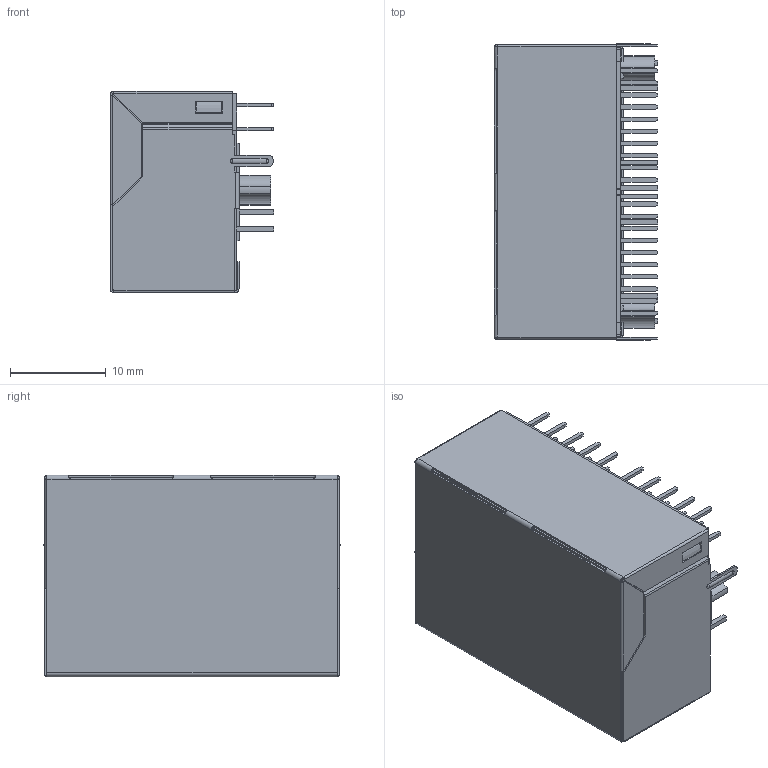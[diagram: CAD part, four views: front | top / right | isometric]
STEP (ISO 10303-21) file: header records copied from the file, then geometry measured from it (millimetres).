
FILE_DESCRIPTION((''),'2;1');
FILE_NAME('1X2_ASM_1_ASM_1_ASM_1_ASM','2020-11-02T11:06:46',('Administrator'),(''),'CREO PARAMETRIC BY PTC INC, 2018400','CREO PARAMETRIC BY PTC INC, 2018400','');
FILE_SCHEMA(('CONFIG_CONTROL_DESIGN'));
Length unit declared in the file: millimetre
Products named in the file (13): 1X2S-LED_1_1_1; 1X2S_ASM_1_ASM_1_ASM_1_ASM; LED_G_1_1_1; LED_Y0_1_1_1; DIANLUBAN__100_1_1_1; 200_1_1_1; 000_1_1_1; Z2_1_1_1; Z1_1_1_1; 1X2-10P10C_ASM_1_ASM_1_ASM_1_ASM; 1X2T_1_1_1; 1X2T_ASM_1_ASM_1_ASM_1_ASM; 1X2_ASM_1_ASM_1_ASM_1_ASM
Assembly tree (30 placements, depth 3):
  1X2_ASM_1_ASM_1_ASM_1_ASM
    1X2S_ASM_1_ASM_1_ASM_1_ASM
      1X2S-LED_1_1_1
    LED_G_1_1_1  x3
    LED_Y0_1_1_1
    1X2-10P10C_ASM_1_ASM_1_ASM_1_ASM  x2
      DIANLUBAN__100_1_1_1
      200_1_1_1
      000_1_1_1
      Z2_1_1_1
      Z1_1_1_1
    1X2T_ASM_1_ASM_1_ASM_1_ASM
      1X2T_1_1_1
Bounding box: 17.15 x 31 x 21.1 mm (x, y, z)
Volume: 3931.5 mm3; surface area: 13276.5 mm2
Topology: 46 solids, 46 shells, 2062 faces, 5780 edges, 3780 vertices
Faces by surface type: plane 1588, cylinder 460, sphere 8, bspline 6
Entity records: 35824 total; most frequent: CARTESIAN_POINT 6646, ORIENTED_EDGE 6166, DIRECTION 5822, EDGE_CURVE 3083, VECTOR 2624, LINE 2624, VERTEX_POINT 1984, AXIS2_PLACEMENT_3D 1599
